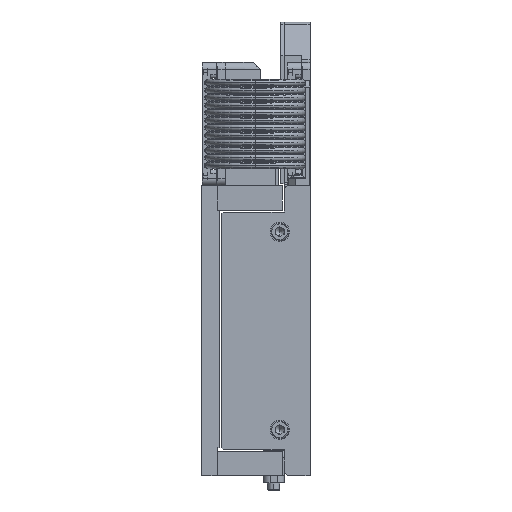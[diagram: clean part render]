
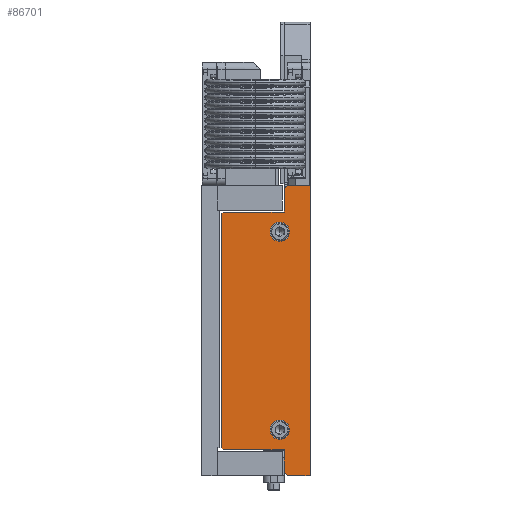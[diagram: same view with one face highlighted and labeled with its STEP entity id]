
A CAD part, left-side view. The second image highlights one B-rep face of the part: STEP entity #86701.
In plain terms, the highlighted planar face has unit normal (-1, 0, 0).
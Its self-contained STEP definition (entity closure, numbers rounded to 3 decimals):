
#48 = LINE ( 'NONE', #2994, #29161 ) ;
#286 = EDGE_CURVE ( 'NONE', #94300, #22132, #7661, .T. ) ;
#1074 = VERTEX_POINT ( 'NONE', #9352 ) ;
#1118 = EDGE_CURVE ( 'NONE', #89900, #6636, #68197, .T. ) ;
#2154 = VECTOR ( 'NONE', #57754, 1000. ) ;
#2317 = EDGE_LOOP ( 'NONE', ( #41772, #3555 ) ) ;
#2994 = CARTESIAN_POINT ( 'NONE',  ( -215., 49.5, -67.5 ) ) ;
#3555 = ORIENTED_EDGE ( 'NONE', *, *, #112897, .F. ) ;
#3615 = VERTEX_POINT ( 'NONE', #68579 ) ;
#4761 = CARTESIAN_POINT ( 'NONE',  ( -215., 17.5, -50.75 ) ) ;
#5564 = ORIENTED_EDGE ( 'NONE', *, *, #37973, .T. ) ;
#5877 = CARTESIAN_POINT ( 'NONE',  ( -215., 49.5, 67.5 ) ) ;
#6636 = VERTEX_POINT ( 'NONE', #16693 ) ;
#7150 = EDGE_CURVE ( 'NONE', #57599, #40575, #53031, .T. ) ;
#7661 = LINE ( 'NONE', #57385, #2154 ) ;
#8374 = VECTOR ( 'NONE', #101354, 1000. ) ;
#9352 = CARTESIAN_POINT ( 'NONE',  ( -215., 50.5, -66.5 ) ) ;
#12112 = EDGE_CURVE ( 'NONE', #98328, #94300, #81182, .T. ) ;
#13973 = EDGE_CURVE ( 'NONE', #6636, #93436, #33672, .T. ) ;
#14680 = VECTOR ( 'NONE', #72432, 1000. ) ;
#16693 = CARTESIAN_POINT ( 'NONE',  ( -215., 0.25, 82.5 ) ) ;
#17834 = CARTESIAN_POINT ( 'NONE',  ( -215., 17.5, 61.75 ) ) ;
#22132 = VERTEX_POINT ( 'NONE', #34893 ) ;
#22525 = CARTESIAN_POINT ( 'NONE',  ( -215., 50.5, 66.5 ) ) ;
#23752 = FACE_OUTER_BOUND ( 'NONE', #60285, .T. ) ;
#24433 = DIRECTION ( 'NONE',  ( 0., 0., -1. ) ) ;
#24472 = EDGE_CURVE ( 'NONE', #103694, #98328, #76739, .T. ) ;
#25070 = DIRECTION ( 'NONE',  ( 0., 0., 1. ) ) ;
#25366 = CARTESIAN_POINT ( 'NONE',  ( -215., 15., 80.55 ) ) ;
#25937 = DIRECTION ( 'NONE',  ( 1., 0., 0. ) ) ;
#26048 = CARTESIAN_POINT ( 'NONE',  ( -215., 15., 80.55 ) ) ;
#27106 = VECTOR ( 'NONE', #61916, 1000. ) ;
#28626 = DIRECTION ( 'NONE',  ( -1., 0., 0. ) ) ;
#29161 = VECTOR ( 'NONE', #64772, 1000. ) ;
#29840 = ORIENTED_EDGE ( 'NONE', *, *, #49184, .T. ) ;
#30713 = EDGE_CURVE ( 'NONE', #22132, #89900, #47288, .T. ) ;
#30884 = EDGE_CURVE ( 'NONE', #72781, #1074, #99842, .T. ) ;
#31571 = VECTOR ( 'NONE', #40194, 1000. ) ;
#31716 = CARTESIAN_POINT ( 'NONE',  ( -215., 50.5, 66.5 ) ) ;
#32124 = AXIS2_PLACEMENT_3D ( 'NONE', #87258, #25937, #52853 ) ;
#33383 = FACE_BOUND ( 'NONE', #74186, .T. ) ;
#33672 = LINE ( 'NONE', #35148, #54368 ) ;
#34010 = CARTESIAN_POINT ( 'NONE',  ( -215., 15., -67.5 ) ) ;
#34298 = LINE ( 'NONE', #66014, #50822 ) ;
#34835 = CIRCLE ( 'NONE', #110890, 5.5 ) ;
#34893 = CARTESIAN_POINT ( 'NONE',  ( -215., 13.05, -82.5 ) ) ;
#35148 = CARTESIAN_POINT ( 'NONE',  ( -215., 13.05, 82.5 ) ) ;
#36284 = VECTOR ( 'NONE', #57315, 1000. ) ;
#37973 = EDGE_CURVE ( 'NONE', #48207, #87616, #34298, .T. ) ;
#38107 = ORIENTED_EDGE ( 'NONE', *, *, #75657, .T. ) ;
#38222 = ORIENTED_EDGE ( 'NONE', *, *, #101347, .T. ) ;
#38759 = DIRECTION ( 'NONE',  ( -1., 0., 0. ) ) ;
#40194 = DIRECTION ( 'NONE',  ( 0., 0.707, -0.707 ) ) ;
#40231 = CARTESIAN_POINT ( 'NONE',  ( -215., 17.5, 50.75 ) ) ;
#40575 = VERTEX_POINT ( 'NONE', #17834 ) ;
#41772 = ORIENTED_EDGE ( 'NONE', *, *, #50941, .F. ) ;
#42385 = CIRCLE ( 'NONE', #62709, 5.5 ) ;
#44355 = DIRECTION ( 'NONE',  ( 0., 1., 0. ) ) ;
#44700 = CARTESIAN_POINT ( 'NONE',  ( -215., 15., -67.5 ) ) ;
#45114 = CARTESIAN_POINT ( 'NONE',  ( -215., 49.5, -67.5 ) ) ;
#46142 = ORIENTED_EDGE ( 'NONE', *, *, #286, .T. ) ;
#47008 = CARTESIAN_POINT ( 'NONE',  ( -215., 17.5, 56.25 ) ) ;
#47288 = LINE ( 'NONE', #48749, #36284 ) ;
#47490 = DIRECTION ( 'NONE',  ( 0., 0., -1. ) ) ;
#48207 = VERTEX_POINT ( 'NONE', #25366 ) ;
#48749 = CARTESIAN_POINT ( 'NONE',  ( -215., 0.25, -82.5 ) ) ;
#48805 = ORIENTED_EDGE ( 'NONE', *, *, #7150, .F. ) ;
#49184 = EDGE_CURVE ( 'NONE', #87616, #67366, #73257, .T. ) ;
#49332 = EDGE_CURVE ( 'NONE', #1074, #103694, #48, .T. ) ;
#50822 = VECTOR ( 'NONE', #47490, 1000. ) ;
#50941 = EDGE_CURVE ( 'NONE', #59655, #3615, #42385, .T. ) ;
#51198 = CARTESIAN_POINT ( 'NONE',  ( -215., 13.05, 82.5 ) ) ;
#52142 = VECTOR ( 'NONE', #24433, 1000. ) ;
#52853 = DIRECTION ( 'NONE',  ( 0., 0., -1. ) ) ;
#53031 = CIRCLE ( 'NONE', #59513, 5.5 ) ;
#53647 = CARTESIAN_POINT ( 'NONE',  ( -215., 17.5, -56.25 ) ) ;
#54368 = VECTOR ( 'NONE', #44355, 1000. ) ;
#54524 = VECTOR ( 'NONE', #89978, 1000. ) ;
#56167 = ORIENTED_EDGE ( 'NONE', *, *, #30884, .T. ) ;
#56378 = ORIENTED_EDGE ( 'NONE', *, *, #1118, .T. ) ;
#57315 = DIRECTION ( 'NONE',  ( 0., -1., 0. ) ) ;
#57385 = CARTESIAN_POINT ( 'NONE',  ( -215., 13.05, -82.5 ) ) ;
#57599 = VERTEX_POINT ( 'NONE', #40231 ) ;
#57754 = DIRECTION ( 'NONE',  ( 0., -0.707, -0.707 ) ) ;
#59513 = AXIS2_PLACEMENT_3D ( 'NONE', #47008, #92177, #99578 ) ;
#59655 = VERTEX_POINT ( 'NONE', #4761 ) ;
#60285 = EDGE_LOOP ( 'NONE', ( #56378, #103790, #38222, #5564, #29840, #38107, #56167, #86350, #87126, #68083, #46142, #70146 ) ) ;
#60328 = ORIENTED_EDGE ( 'NONE', *, *, #99099, .F. ) ;
#61421 = PLANE ( 'NONE',  #32124 ) ;
#61916 = DIRECTION ( 'NONE',  ( 0., 0.707, -0.707 ) ) ;
#62709 = AXIS2_PLACEMENT_3D ( 'NONE', #78273, #69791, #25070 ) ;
#64404 = CARTESIAN_POINT ( 'NONE',  ( -215., 49.5, 67.5 ) ) ;
#64633 = AXIS2_PLACEMENT_3D ( 'NONE', #93118, #38759, #66109 ) ;
#64772 = DIRECTION ( 'NONE',  ( 0., -0.707, -0.707 ) ) ;
#64877 = CARTESIAN_POINT ( 'NONE',  ( -215., 0.25, 82.5 ) ) ;
#66014 = CARTESIAN_POINT ( 'NONE',  ( -215., 15., 67.5 ) ) ;
#66109 = DIRECTION ( 'NONE',  ( 0., 0., 1. ) ) ;
#67366 = VERTEX_POINT ( 'NONE', #5877 ) ;
#68083 = ORIENTED_EDGE ( 'NONE', *, *, #12112, .T. ) ;
#68197 = LINE ( 'NONE', #64877, #54524 ) ;
#68579 = CARTESIAN_POINT ( 'NONE',  ( -215., 17.5, -61.75 ) ) ;
#69791 = DIRECTION ( 'NONE',  ( -1., 0., 0. ) ) ;
#70146 = ORIENTED_EDGE ( 'NONE', *, *, #30713, .T. ) ;
#72432 = DIRECTION ( 'NONE',  ( 0., -1., 0. ) ) ;
#72781 = VERTEX_POINT ( 'NONE', #22525 ) ;
#73257 = LINE ( 'NONE', #64404, #8374 ) ;
#73933 = LINE ( 'NONE', #26048, #27106 ) ;
#74186 = EDGE_LOOP ( 'NONE', ( #60328, #48805 ) ) ;
#74751 = CARTESIAN_POINT ( 'NONE',  ( -215., 15., 67.5 ) ) ;
#75657 = EDGE_CURVE ( 'NONE', #67366, #72781, #84030, .T. ) ;
#76739 = LINE ( 'NONE', #44700, #14680 ) ;
#77230 = CARTESIAN_POINT ( 'NONE',  ( -215., 15., -80.55 ) ) ;
#78273 = CARTESIAN_POINT ( 'NONE',  ( -215., 17.5, -56.25 ) ) ;
#79431 = CARTESIAN_POINT ( 'NONE',  ( -215., 15., -80.55 ) ) ;
#81182 = LINE ( 'NONE', #77230, #52142 ) ;
#84030 = LINE ( 'NONE', #31716, #31571 ) ;
#86350 = ORIENTED_EDGE ( 'NONE', *, *, #49332, .T. ) ;
#86701 = ADVANCED_FACE ( 'NONE', ( #103793, #33383, #23752 ), #61421, .F. ) ;
#87126 = ORIENTED_EDGE ( 'NONE', *, *, #24472, .T. ) ;
#87258 = CARTESIAN_POINT ( 'NONE',  ( -215., 0., 0. ) ) ;
#87616 = VERTEX_POINT ( 'NONE', #74751 ) ;
#89900 = VERTEX_POINT ( 'NONE', #106940 ) ;
#89978 = DIRECTION ( 'NONE',  ( 0., 0., 1. ) ) ;
#92177 = DIRECTION ( 'NONE',  ( -1., 0., 0. ) ) ;
#92440 = DIRECTION ( 'NONE',  ( 0., 0., -1. ) ) ;
#93118 = CARTESIAN_POINT ( 'NONE',  ( -215., 17.5, 56.25 ) ) ;
#93436 = VERTEX_POINT ( 'NONE', #51198 ) ;
#94300 = VERTEX_POINT ( 'NONE', #79431 ) ;
#98328 = VERTEX_POINT ( 'NONE', #34010 ) ;
#99099 = EDGE_CURVE ( 'NONE', #40575, #57599, #109849, .T. ) ;
#99232 = DIRECTION ( 'NONE',  ( 0., 0., 1. ) ) ;
#99578 = DIRECTION ( 'NONE',  ( 0., 0., 1. ) ) ;
#99842 = LINE ( 'NONE', #111674, #101120 ) ;
#101120 = VECTOR ( 'NONE', #92440, 1000. ) ;
#101347 = EDGE_CURVE ( 'NONE', #93436, #48207, #73933, .T. ) ;
#101354 = DIRECTION ( 'NONE',  ( 0., 1., 0. ) ) ;
#103694 = VERTEX_POINT ( 'NONE', #45114 ) ;
#103790 = ORIENTED_EDGE ( 'NONE', *, *, #13973, .T. ) ;
#103793 = FACE_BOUND ( 'NONE', #2317, .T. ) ;
#106940 = CARTESIAN_POINT ( 'NONE',  ( -215., 0.25, -82.5 ) ) ;
#109849 = CIRCLE ( 'NONE', #64633, 5.5 ) ;
#110890 = AXIS2_PLACEMENT_3D ( 'NONE', #53647, #28626, #99232 ) ;
#111674 = CARTESIAN_POINT ( 'NONE',  ( -215., 50.5, -66.5 ) ) ;
#112897 = EDGE_CURVE ( 'NONE', #3615, #59655, #34835, .T. ) ;
